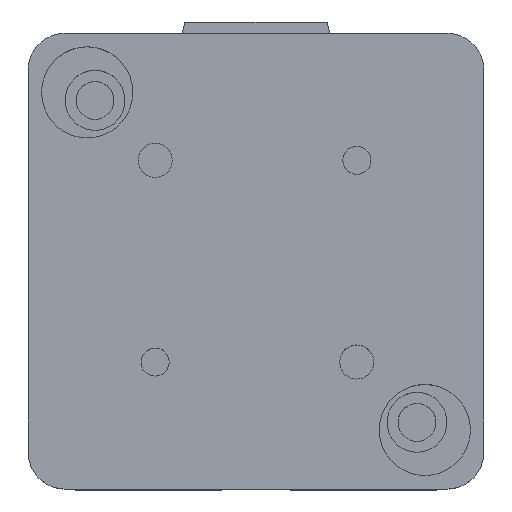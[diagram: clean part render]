
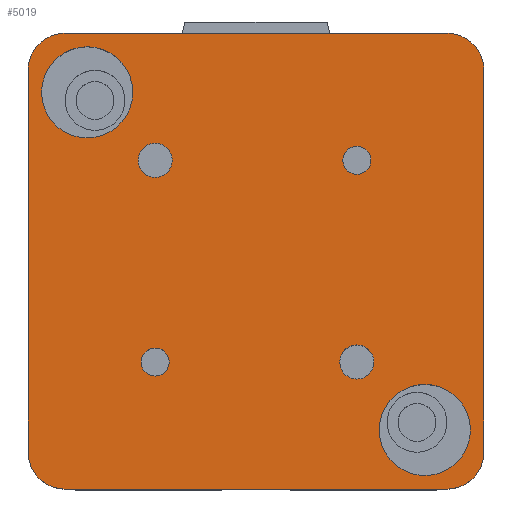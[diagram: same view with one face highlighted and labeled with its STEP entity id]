
A CAD part, top view. The second image highlights one B-rep face of the part: STEP entity #5019.
In plain terms, the highlighted planar face has unit normal (0, 0, 1) as drawn and (0, -1, 0) by its records, which use the part's own axes.
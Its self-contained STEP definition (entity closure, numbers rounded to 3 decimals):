
#4397=CARTESIAN_POINT('',(-15.241,-12.,-17.7));
#4398=VERTEX_POINT('',#4397);
#4399=CARTESIAN_POINT('',(-17.7,-12.,-17.7));
#4400=DIRECTION('',(0.0,1.0,0.0));
#4401=DIRECTION('',(1.0,0.0,0.0));
#4402=AXIS2_PLACEMENT_3D('',#4399,#4400,#4401);
#4403=CIRCLE('',#4402,2.459);
#4404=EDGE_CURVE('',#4398,#4398,#4403,.T.);
#4446=CARTESIAN_POINT('',(20.159,-12.,17.7));
#4447=VERTEX_POINT('',#4446);
#4448=CARTESIAN_POINT('',(17.7,-12.,17.7));
#4449=DIRECTION('',(0.0,1.0,0.0));
#4450=DIRECTION('',(1.0,0.0,0.0));
#4451=AXIS2_PLACEMENT_3D('',#4448,#4449,#4450);
#4452=CIRCLE('',#4451,2.459);
#4453=EDGE_CURVE('',#4447,#4447,#4452,.T.);
#4495=CARTESIAN_POINT('',(20.7,-12.,-17.7));
#4496=VERTEX_POINT('',#4495);
#4497=CARTESIAN_POINT('',(17.7,-12.,-17.7));
#4498=DIRECTION('',(0.0,1.0,0.0));
#4499=DIRECTION('',(1.0,0.0,0.0));
#4500=AXIS2_PLACEMENT_3D('',#4497,#4498,#4499);
#4501=CIRCLE('',#4500,3.);
#4502=EDGE_CURVE('',#4496,#4496,#4501,.T.);
#4544=CARTESIAN_POINT('',(-14.7,-12.,17.7));
#4545=VERTEX_POINT('',#4544);
#4546=CARTESIAN_POINT('',(-17.7,-12.,17.7));
#4547=DIRECTION('',(0.0,1.0,0.0));
#4548=DIRECTION('',(1.0,0.0,0.0));
#4549=AXIS2_PLACEMENT_3D('',#4546,#4547,#4548);
#4550=CIRCLE('',#4549,3.);
#4551=EDGE_CURVE('',#4545,#4545,#4550,.T.);
#4593=CARTESIAN_POINT('',(37.625,-12.,-29.625));
#4594=VERTEX_POINT('',#4593);
#4595=CARTESIAN_POINT('',(29.625,-12.,-29.625));
#4596=DIRECTION('',(0.0,1.0,0.0));
#4597=DIRECTION('',(1.0,0.0,0.0));
#4598=AXIS2_PLACEMENT_3D('',#4595,#4596,#4597);
#4599=CIRCLE('',#4598,8.0);
#4600=EDGE_CURVE('',#4594,#4594,#4599,.T.);
#4642=CARTESIAN_POINT('',(-21.625,-12.,29.625));
#4643=VERTEX_POINT('',#4642);
#4644=CARTESIAN_POINT('',(-29.625,-12.,29.625));
#4645=DIRECTION('',(0.0,1.0,0.0));
#4646=DIRECTION('',(1.0,0.0,0.0));
#4647=AXIS2_PLACEMENT_3D('',#4644,#4645,#4646);
#4648=CIRCLE('',#4647,8.0);
#4649=EDGE_CURVE('',#4643,#4643,#4648,.T.);
#4795=CARTESIAN_POINT('',(-33.5,-12.,40.0));
#4796=VERTEX_POINT('',#4795);
#4797=CARTESIAN_POINT('',(33.5,-12.,40.0));
#4798=VERTEX_POINT('',#4797);
#4799=CARTESIAN_POINT('',(-33.5,-12.,40.0));
#4800=DIRECTION('',(1.0,0.0,0.0));
#4801=VECTOR('',#4800,67.0);
#4802=LINE('',#4799,#4801);
#4803=EDGE_CURVE('',#4796,#4798,#4802,.T.);
#4826=CARTESIAN_POINT('',(40.0,-12.,33.5));
#4827=VERTEX_POINT('',#4826);
#4828=CARTESIAN_POINT('',(33.5,-12.,33.5));
#4829=DIRECTION('',(0.0,1.0,0.0));
#4830=DIRECTION('',(-1.0,0.0,0.0));
#4831=AXIS2_PLACEMENT_3D('',#4828,#4829,#4830);
#4832=CIRCLE('',#4831,6.5);
#4833=EDGE_CURVE('',#4798,#4827,#4832,.T.);
#4851=CARTESIAN_POINT('',(40.0,-12.,-33.5));
#4852=VERTEX_POINT('',#4851);
#4853=CARTESIAN_POINT('',(40.0,-12.,33.5));
#4854=DIRECTION('',(0.0,0.0,-1.0));
#4855=VECTOR('',#4854,67.0);
#4856=LINE('',#4853,#4855);
#4857=EDGE_CURVE('',#4827,#4852,#4856,.T.);
#4875=CARTESIAN_POINT('',(33.5,-12.,-40.0));
#4876=VERTEX_POINT('',#4875);
#4877=CARTESIAN_POINT('',(33.5,-12.,-33.5));
#4878=DIRECTION('',(0.0,1.0,0.0));
#4879=DIRECTION('',(0.0,0.0,1.0));
#4880=AXIS2_PLACEMENT_3D('',#4877,#4878,#4879);
#4881=CIRCLE('',#4880,6.5);
#4882=EDGE_CURVE('',#4852,#4876,#4881,.T.);
#4900=CARTESIAN_POINT('',(-33.5,-12.,-40.0));
#4901=VERTEX_POINT('',#4900);
#4902=CARTESIAN_POINT('',(33.5,-12.,-40.0));
#4903=DIRECTION('',(-1.0,0.0,0.0));
#4904=VECTOR('',#4903,67.0);
#4905=LINE('',#4902,#4904);
#4906=EDGE_CURVE('',#4876,#4901,#4905,.T.);
#4924=CARTESIAN_POINT('',(-40.0,-12.,-33.5));
#4925=VERTEX_POINT('',#4924);
#4926=CARTESIAN_POINT('',(-33.5,-12.,-33.5));
#4927=DIRECTION('',(0.0,1.0,0.0));
#4928=DIRECTION('',(1.0,0.0,0.0));
#4929=AXIS2_PLACEMENT_3D('',#4926,#4927,#4928);
#4930=CIRCLE('',#4929,6.5);
#4931=EDGE_CURVE('',#4901,#4925,#4930,.T.);
#4949=CARTESIAN_POINT('',(-40.0,-12.,33.5));
#4950=VERTEX_POINT('',#4949);
#4951=CARTESIAN_POINT('',(-40.0,-12.,-33.5));
#4952=DIRECTION('',(0.0,0.0,1.0));
#4953=VECTOR('',#4952,67.0);
#4954=LINE('',#4951,#4953);
#4955=EDGE_CURVE('',#4925,#4950,#4954,.T.);
#4973=CARTESIAN_POINT('',(-33.5,-12.,33.5));
#4974=DIRECTION('',(0.0,1.0,0.0));
#4975=DIRECTION('',(0.0,0.0,-1.0));
#4976=AXIS2_PLACEMENT_3D('',#4973,#4974,#4975);
#4977=CIRCLE('',#4976,6.5);
#4978=EDGE_CURVE('',#4950,#4796,#4977,.T.);
#4986=CARTESIAN_POINT('',(0.,-12.,0.));
#4987=DIRECTION('',(0.0,1.0,0.0));
#4988=DIRECTION('',(0.0,0.0,1.0));
#4989=AXIS2_PLACEMENT_3D('',#4986,#4987,#4988);
#4990=PLANE('',#4989);
#4991=ORIENTED_EDGE('',*,*,#4803,.F.);
#4992=ORIENTED_EDGE('',*,*,#4978,.F.);
#4993=ORIENTED_EDGE('',*,*,#4955,.F.);
#4994=ORIENTED_EDGE('',*,*,#4931,.F.);
#4995=ORIENTED_EDGE('',*,*,#4906,.F.);
#4996=ORIENTED_EDGE('',*,*,#4882,.F.);
#4997=ORIENTED_EDGE('',*,*,#4857,.F.);
#4998=ORIENTED_EDGE('',*,*,#4833,.F.);
#4999=EDGE_LOOP('',(#4991,#4992,#4993,#4994,#4995,#4996,#4997,#4998));
#5000=FACE_OUTER_BOUND('',#4999,.T.);
#5001=ORIENTED_EDGE('',*,*,#4404,.T.);
#5002=EDGE_LOOP('',(#5001));
#5003=FACE_BOUND('',#5002,.T.);
#5004=ORIENTED_EDGE('',*,*,#4453,.T.);
#5005=EDGE_LOOP('',(#5004));
#5006=FACE_BOUND('',#5005,.T.);
#5007=ORIENTED_EDGE('',*,*,#4502,.T.);
#5008=EDGE_LOOP('',(#5007));
#5009=FACE_BOUND('',#5008,.T.);
#5010=ORIENTED_EDGE('',*,*,#4551,.T.);
#5011=EDGE_LOOP('',(#5010));
#5012=FACE_BOUND('',#5011,.T.);
#5013=ORIENTED_EDGE('',*,*,#4600,.T.);
#5014=EDGE_LOOP('',(#5013));
#5015=FACE_BOUND('',#5014,.T.);
#5016=ORIENTED_EDGE('',*,*,#4649,.T.);
#5017=EDGE_LOOP('',(#5016));
#5018=FACE_BOUND('',#5017,.T.);
#5019=ADVANCED_FACE('',(#5000,#5003,#5006,#5009,#5012,#5015,#5018),#4990,.F.);
